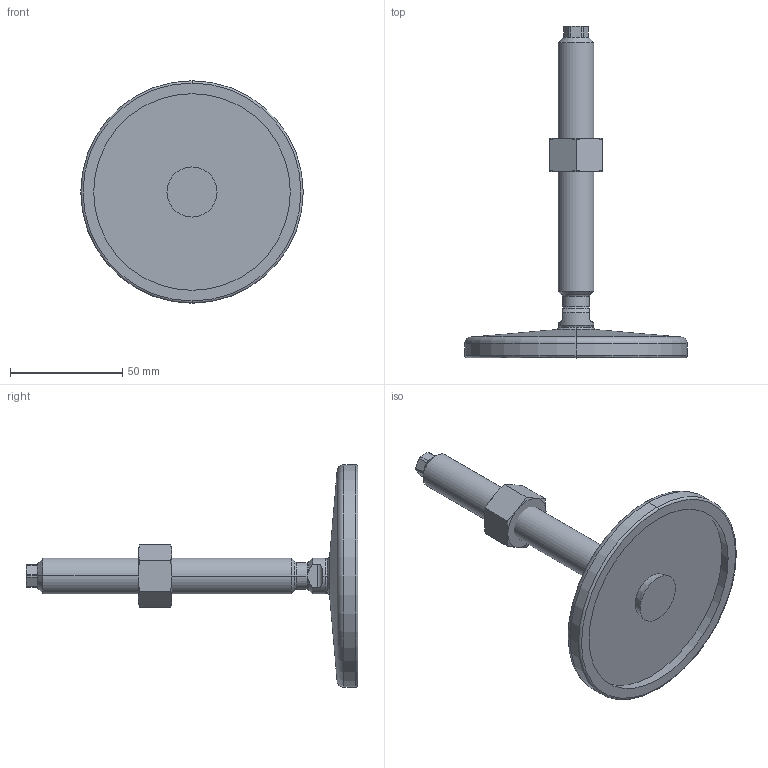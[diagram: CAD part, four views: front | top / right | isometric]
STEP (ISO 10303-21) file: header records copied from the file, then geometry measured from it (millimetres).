
FILE_DESCRIPTION (( 'STEP AP214' ), '1' );
FILE_NAME ('21-100-M16-125-D0-VK.step', '2020-10-02T17:36:54', ( '' ), ( '' ), 'SwSTEP 2.0', 'SolidWorks 2019', '' );
FILE_SCHEMA (( 'AUTOMOTIVE_DESIGN' ));
Length unit declared in the file: millimetre
Products named in the file (4): WB21_Fußteller 21^WB21_V_D0-100-R10-B7 (M8 M10_M12_M16); WB4032^WB21_V_M16; 21-100-M16-125-D0-VK; WB21_Spindel_V^WB21_V_M16-125
Assembly tree (3 placements, depth 2):
  21-100-M16-125-D0-VK
    WB21_Fußteller 21^WB21_V_D0-100-R10-B7 (M8 M10_M12_M16)
    WB21_Spindel_V^WB21_V_M16-125
    WB4032^WB21_V_M16
Bounding box: 99 x 147.64 x 99 mm (x, y, z)
Volume: 84499.5 mm3; surface area: 29332.2 mm2
Topology: 3 solids, 3 shells, 101 faces, 225 edges, 133 vertices
Faces by surface type: cone 33, plane 29, cylinder 25, torus 10, sphere 4
Entity records: 3168 total; most frequent: CARTESIAN_POINT 741, DIRECTION 492, ORIENTED_EDGE 450, EDGE_CURVE 225, AXIS2_PLACEMENT_3D 212, VERTEX_POINT 133, EDGE_LOOP 106, CIRCLE 105
